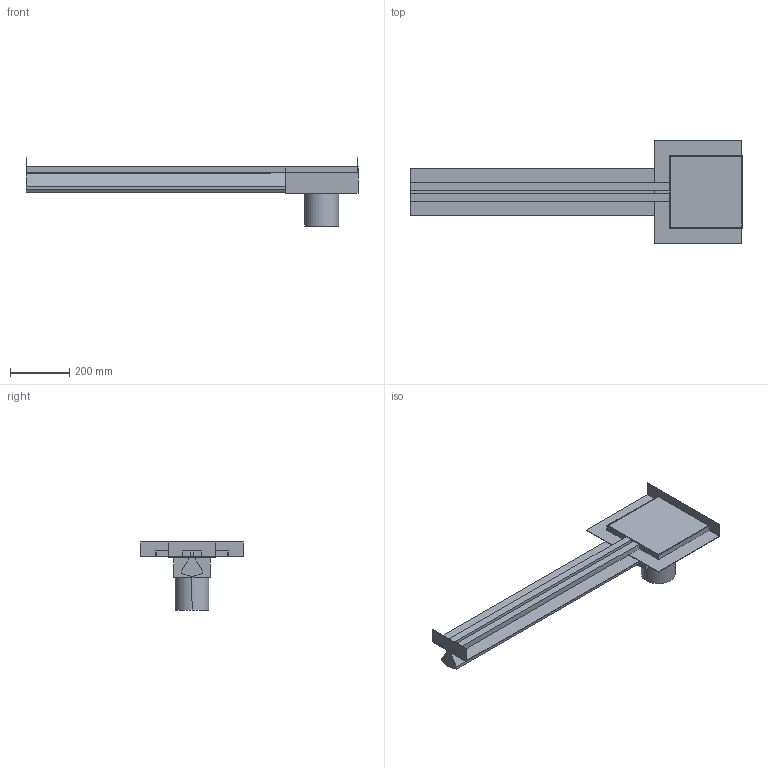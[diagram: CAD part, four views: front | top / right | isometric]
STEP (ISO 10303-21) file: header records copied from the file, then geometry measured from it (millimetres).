
FILE_DESCRIPTION(/* description */ (''),/* implementation_level */ '2;1');
FILE_NAME(/* name */ 'E:\Workspace\resitec\Packs\Kategorie\Entwässerungsrinne\STP\RS772K.65.245Schlitzrinne mit Rand 25mm AuslaufkastenE245mm-2xZargeL+R-2xKRV+H.s.ipt.stp',/* time_stamp */ '2020-10-04T20:57:28+02:00',/* author */ ('ndmes'),/* organization */ (''),/* preprocessor_version */ 'ST-DEVELOPER v18.1',/* originating_system */ 'Autodesk Inventor 2021',/* authorisation */ '');
FILE_SCHEMA (('AUTOMOTIVE_DESIGN { 1 0 10303 214 3 1 1 }'));
Length unit declared in the file: millimetre
Products named in the file (1): RS772K.65.245Schlitzrinne mit Rand 25mm AuslaufkastenE245mm-2xZargeL+
R-2xKRV+H.s
Bounding box: 1122.5 x 345 x 230 mm (x, y, z)
Volume: 9001991.7 mm3; surface area: 1255550.3 mm2
Topology: 10 solids, 10 shells, 71 faces, 153 edges, 102 vertices
Faces by surface type: plane 69, cylinder 2
Entity records: 1927 total; most frequent: CARTESIAN_POINT 327, ORIENTED_EDGE 306, DIRECTION 301, EDGE_CURVE 153, LINE 149, VECTOR 149, VERTEX_POINT 102, AXIS2_PLACEMENT_3D 76
